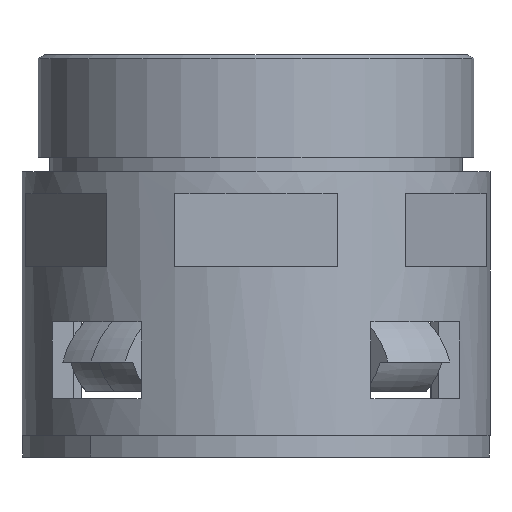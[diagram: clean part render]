
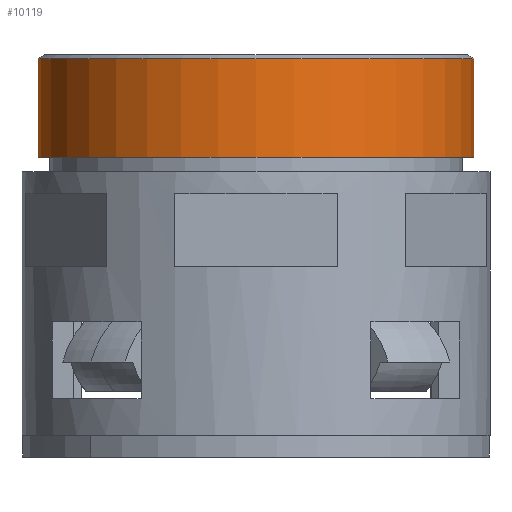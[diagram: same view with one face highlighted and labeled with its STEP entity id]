
A CAD part, front view. The second image highlights one B-rep face of the part: STEP entity #10119.
In plain terms, the highlighted cylindrical face has radius 29.808 mm (diameter 59.615 mm), a partial arc.
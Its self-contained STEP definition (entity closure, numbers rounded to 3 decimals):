
#112 = CARTESIAN_POINT ( 'NONE',  ( 0., 0., -0.5 ) ) ;
#605 = ORIENTED_EDGE ( 'NONE', *, *, #3008, .T. ) ;
#684 = VERTEX_POINT ( 'NONE', #7810 ) ;
#725 = DIRECTION ( 'NONE',  ( 0., 0., 1. ) ) ;
#855 = CARTESIAN_POINT ( 'NONE',  ( 0., 0., 0. ) ) ;
#926 = VECTOR ( 'NONE', #6337, 1000. ) ;
#1801 = CARTESIAN_POINT ( 'NONE',  ( -29.808, 0., 0. ) ) ;
#1955 = DIRECTION ( 'NONE',  ( -1., 0., 0. ) ) ;
#2357 = LINE ( 'NONE', #1801, #926 ) ;
#2521 = DIRECTION ( 'NONE',  ( 0., 0., 1. ) ) ;
#2895 = LINE ( 'NONE', #8798, #7406 ) ;
#2941 = EDGE_CURVE ( 'NONE', #9609, #6778, #5993, .T. ) ;
#3008 = EDGE_CURVE ( 'NONE', #6778, #684, #2895, .T. ) ;
#3448 = FACE_OUTER_BOUND ( 'NONE', #4755, .T. ) ;
#3491 = DIRECTION ( 'NONE',  ( 1., 0., 0. ) ) ;
#4516 = CARTESIAN_POINT ( 'NONE',  ( 29.808, 0., -14. ) ) ;
#4755 = EDGE_LOOP ( 'NONE', ( #11026, #6295, #605, #9556 ) ) ;
#5698 = AXIS2_PLACEMENT_3D ( 'NONE', #855, #9734, #7129 ) ;
#5993 = CIRCLE ( 'NONE', #7814, 29.808 ) ;
#6218 = CARTESIAN_POINT ( 'NONE',  ( 0., 0., -14. ) ) ;
#6295 = ORIENTED_EDGE ( 'NONE', *, *, #2941, .T. ) ;
#6337 = DIRECTION ( 'NONE',  ( 0., 0., 1. ) ) ;
#6674 = CARTESIAN_POINT ( 'NONE',  ( -29.808, 0., -0.5 ) ) ;
#6778 = VERTEX_POINT ( 'NONE', #4516 ) ;
#6860 = VERTEX_POINT ( 'NONE', #6674 ) ;
#7129 = DIRECTION ( 'NONE',  ( 1., 0., 0. ) ) ;
#7299 = CIRCLE ( 'NONE', #10402, 29.808 ) ;
#7364 = DIRECTION ( 'NONE',  ( 0., 0., -1. ) ) ;
#7406 = VECTOR ( 'NONE', #2521, 1000. ) ;
#7810 = CARTESIAN_POINT ( 'NONE',  ( 29.808, 0., -0.5 ) ) ;
#7814 = AXIS2_PLACEMENT_3D ( 'NONE', #6218, #725, #3491 ) ;
#8108 = CARTESIAN_POINT ( 'NONE',  ( -29.808, 0., -14. ) ) ;
#8260 = EDGE_CURVE ( 'NONE', #684, #6860, #7299, .T. ) ;
#8798 = CARTESIAN_POINT ( 'NONE',  ( 29.808, 0., 0. ) ) ;
#8828 = CYLINDRICAL_SURFACE ( 'NONE', #5698, 29.808 ) ;
#9068 = EDGE_CURVE ( 'NONE', #9609, #6860, #2357, .T. ) ;
#9556 = ORIENTED_EDGE ( 'NONE', *, *, #8260, .T. ) ;
#9609 = VERTEX_POINT ( 'NONE', #8108 ) ;
#9734 = DIRECTION ( 'NONE',  ( 0., 0., 1. ) ) ;
#10119 = ADVANCED_FACE ( 'NONE', ( #3448 ), #8828, .T. ) ;
#10402 = AXIS2_PLACEMENT_3D ( 'NONE', #112, #7364, #1955 ) ;
#11026 = ORIENTED_EDGE ( 'NONE', *, *, #9068, .F. ) ;
